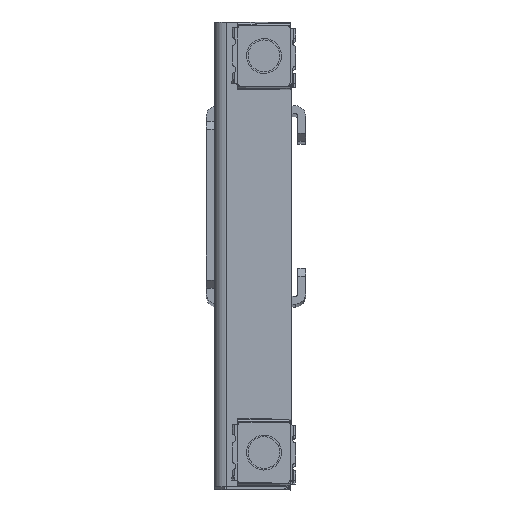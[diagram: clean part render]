
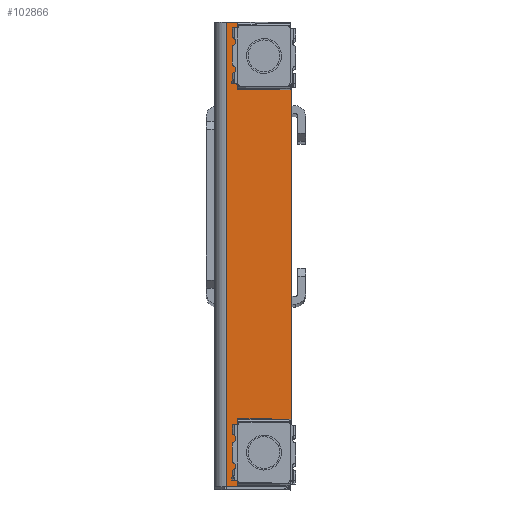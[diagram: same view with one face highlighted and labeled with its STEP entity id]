
A CAD part, top view. The second image highlights one B-rep face of the part: STEP entity #102866.
In plain terms, the highlighted planar face has unit normal (0, 0, 1) as drawn and (0, 0, -1) by its records, which use the part's own axes.
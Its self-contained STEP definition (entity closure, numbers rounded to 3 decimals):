
#102141=CARTESIAN_POINT(' ',(16.4,58.5,-2.5));
#102146=DIRECTION(' ',(0.,-1.,0.));
#102151=VECTOR(' ',#102146,1.);
#102156=LINE('',#102141,#102151);
#102161=CARTESIAN_POINT(' ',(16.4,58.5,-2.5));
#102162=VERTEX_POINT(' ',#102161);
#102166=CARTESIAN_POINT(' ',(16.4,-58.5,-2.5));
#102167=VERTEX_POINT(' ',#102166);
#102171=EDGE_CURVE(' ',#102162,#102167,#102156,.T.);
#102656=DIRECTION(' ',(0.,0.,-1.));
#102661=CARTESIAN_POINT(' ',(16.4,-58.5,-2.5));
#102666=DIRECTION(' ',(-1.,0.,-0.));
#102671=AXIS2_PLACEMENT_3D(' ',#102661,#102656,#102666);
#102676=PLANE('NONE',#102671);
#102681=CARTESIAN_POINT(' ',(2.,-58.5,-2.5));
#102686=DIRECTION(' ',(1.,0.,0.));
#102691=VECTOR(' ',#102686,1.);
#102696=LINE('',#102681,#102691);
#102701=CARTESIAN_POINT(' ',(2.,-58.5,-2.5));
#102702=VERTEX_POINT(' ',#102701);
#102706=EDGE_CURVE(' ',#102702,#102167,#102696,.T.);
#102711=ORIENTED_EDGE(' ',*,*,#102706,.F.);
#102716=CARTESIAN_POINT(' ',(2.,-58.5,-2.5));
#102721=DIRECTION(' ',(-0.707,0.707,0.));
#102726=VECTOR(' ',#102721,1.);
#102731=LINE('',#102716,#102726);
#102736=CARTESIAN_POINT(' ',(0.,-56.5,-2.5));
#102737=VERTEX_POINT(' ',#102736);
#102741=EDGE_CURVE(' ',#102702,#102737,#102731,.T.);
#102746=ORIENTED_EDGE(' ',*,*,#102741,.T.);
#102751=CARTESIAN_POINT(' ',(0.,56.5,-2.5));
#102756=DIRECTION(' ',(0.,-1.,0.));
#102761=VECTOR(' ',#102756,1.);
#102766=LINE('',#102751,#102761);
#102771=CARTESIAN_POINT(' ',(0.,56.5,-2.5));
#102772=VERTEX_POINT(' ',#102771);
#102776=EDGE_CURVE(' ',#102772,#102737,#102766,.T.);
#102781=ORIENTED_EDGE(' ',*,*,#102776,.F.);
#102786=CARTESIAN_POINT(' ',(0.,56.5,-2.5));
#102791=DIRECTION(' ',(0.707,0.707,0.));
#102796=VECTOR(' ',#102791,1.);
#102801=LINE('',#102786,#102796);
#102806=CARTESIAN_POINT(' ',(2.,58.5,-2.5));
#102807=VERTEX_POINT(' ',#102806);
#102811=EDGE_CURVE(' ',#102772,#102807,#102801,.T.);
#102816=ORIENTED_EDGE(' ',*,*,#102811,.T.);
#102821=CARTESIAN_POINT(' ',(16.4,58.5,-2.5));
#102826=DIRECTION(' ',(-1.,0.,0.));
#102831=VECTOR(' ',#102826,1.);
#102836=LINE('',#102821,#102831);
#102841=EDGE_CURVE(' ',#102162,#102807,#102836,.T.);
#102846=ORIENTED_EDGE(' ',*,*,#102841,.F.);
#102851=ORIENTED_EDGE(' ',*,*,#102171,.T.);
#102856=EDGE_LOOP(' ',(#102711,#102746,#102781,#102816,#102846,#102851));
#102861=FACE_OUTER_BOUND(' ',#102856,.T.);
#102866=ADVANCED_FACE('NONE',(#102861),#102676,.T.);
